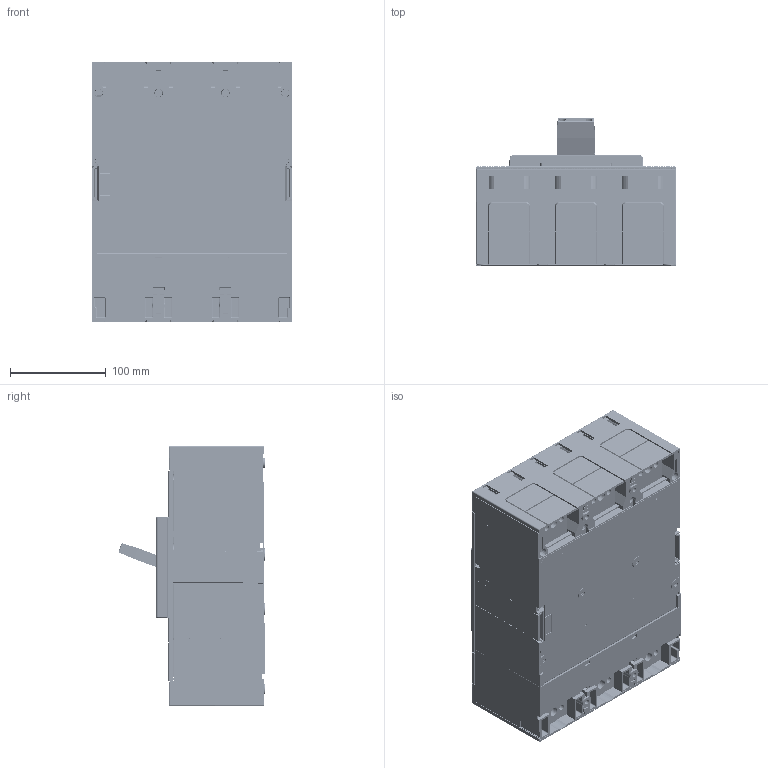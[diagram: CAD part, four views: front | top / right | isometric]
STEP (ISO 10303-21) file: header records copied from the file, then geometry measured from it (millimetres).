
FILE_DESCRIPTION((''),'2;1');
FILE_NAME('10000850726_ASM','2013-12-11T',('Knagaraj'),(''),'PRO/ENGINEER BY PARAMETRIC TECHNOLOGY CORPORATION, 2010140','PRO/ENGINEER BY PARAMETRIC TECHNOLOGY CORPORATION, 2010140','');
FILE_SCHEMA(('CONFIG_CONTROL_DESIGN'));
Products named in the file (5): 10000475867; 10000475868; 10000475869_ASM; 10000850725; 10000850726_ASM
Assembly tree (5 placements, depth 3):
  10000850726_ASM
    10000475869_ASM
      10000475867
      10000475868
    10000850725  x2
Bounding box: 209.5 x 153.8 x 272.4 mm (x, y, z)
Surface area: 1113358.6 mm2 (no closed solid volume)
Topology: 0 solids, 18 shells, 8388 faces, 24666 edges, 16177 vertices
Faces by surface type: plane 6237, cylinder 1781, cone 153, torus 95, sphere 78, extrusion 32, bspline 12
Entity records: 254671 total; most frequent: CARTESIAN_POINT 49617, ORIENTED_EDGE 44441, DIRECTION 40677, EDGE_CURVE 22267, VECTOR 17631, LINE 17599, VERTEX_POINT 14646, AXIS2_PLACEMENT_3D 11523
